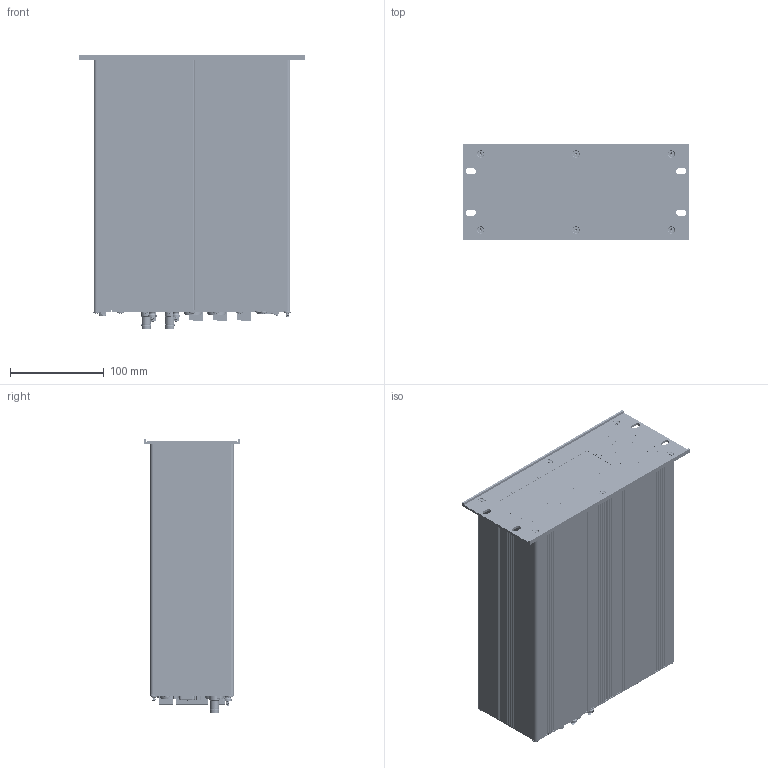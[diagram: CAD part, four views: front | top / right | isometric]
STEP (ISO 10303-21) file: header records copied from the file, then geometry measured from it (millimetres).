
FILE_DESCRIPTION (( 'STEP AP214' ), '1' );
FILE_NAME ('MX200_ANL.STEP', '2022-10-18T17:51:14', ( '' ), ( '' ), 'SwSTEP 2.0', 'SolidWorks 2022', '' );
FILE_SCHEMA (( 'AUTOMOTIVE_DESIGN' ));
Length unit declared in the file: inch
Products named in the file (34): 5500-131; 5300-152; 7900-034; 97517A010_97517A010; 486-1993-ND; 611-1101M2S3AV2QE2; EG4627CT-ND; 9500-83; 91772A148_18-8 SS PAN HEAD PHILLIPS MACHINE SCREW_91772A148; 6200-304; 6200-285; CKN2075-ND; 120-M-111-03; 6200-215; 5500-44; FCE17E09SC44B; 5300-XXX_5300-134; 6200-211; 5500-97 Mounting Plate; 5300-XXX_5300-212; 5500-97; 4210-201_92741A110; 609-1039-ND; 5300-007; 92710A215_92710A215; 6200-313; 4210-202_97517A105; 9500-095; 5300-XXX_5300-159; MX200_ANL; 7600-070-2; 3000-39; 91770A092_91770A092; 817-1421-ND
Assembly tree (47 placements, depth 3):
  MX200_ANL
    7900-034
    7600-070-2
    6200-313
      5300-152
      486-1993-ND
      CKN2075-ND
      817-1421-ND
      97517A010_97517A010  x2
      91770A092_91770A092  x2
    6200-285  x2
      5300-XXX_5300-212
      5500-97
      4210-202_97517A105
      9500-095
      9500-83
      3000-39
      91772A148_18-8 SS PAN HEAD PHILLIPS MACHINE SCREW_91772A148
      4210-201_92741A110
      5500-97 Mounting Plate
      5500-131
    6200-215  x2
      5300-XXX_5300-134
      3000-39
      5500-44
    6200-211
      5300-XXX_5300-159
      3000-39  x4
    6200-304
      5300-007
      120-M-111-03
      FCE17E09SC44B
      609-1039-ND
      611-1101M2S3AV2QE2
      EG4627CT-ND
      92710A215_92710A215  x3
Bounding box: 241.3 x 101.6 x 291.34 mm (x, y, z)
Volume: 649040.4 mm3; surface area: 653940.2 mm2
Topology: 114 solids, 131 shells, 11577 faces, 33081 edges, 22148 vertices
Faces by surface type: plane 6505, cylinder 3823, cone 576, bspline 452, torus 161, sphere 60
Full cylindrical faces by diameter (mm): 0.46 x2, 0.5 x5, 0.8 x1, 0.9 x1, 1.8 x24, 2 x5, 2.1 x1, 2.381 x8, 2.5 x4, 2.54 x6, 2.7 x24, 2.705 x2, 2.8 x3, 2.845 x21, 3 x24, 3.048 x9, 3.175 x4, 3.2 x3, 3.277 x8, 3.3 x2, 3.6 x2, 3.607 x2, 3.658 x24, 4 x26, 4.2 x24, 5.029 x4, 5.7 x2, 5.98 x2, 6.35 x2, 6.528 x2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
Entity records: 444028 total; most frequent: CARTESIAN_POINT 141556, ORIENTED_EDGE 54220, DIRECTION 42448, EDGE_CURVE 27130, VERTEX_POINT 18186, LINE 15290, VECTOR 15290, AXIS2_PLACEMENT_3D 13579
